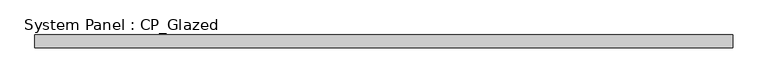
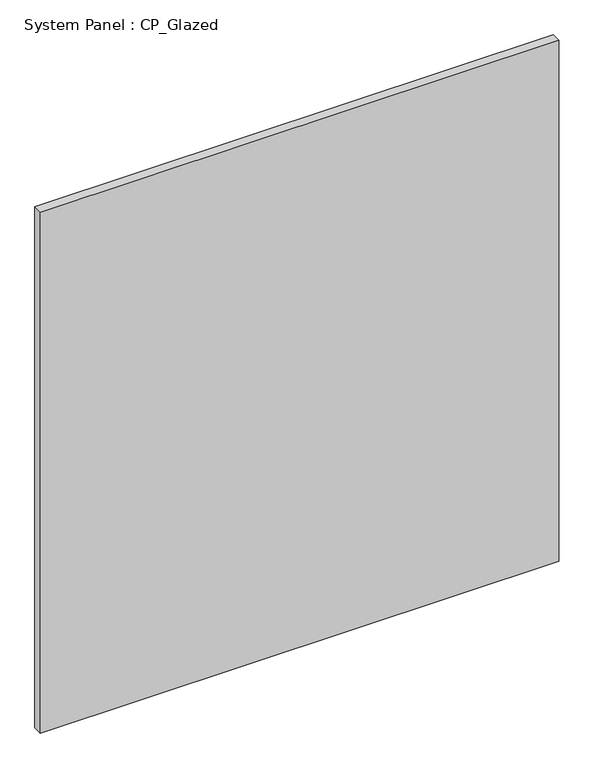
"""IFC4 building model written with IfcOpenShell, lengths in millimetres: plate geometry, System Panel : CP_Glazed."""

from ifc_helpers import new_model, si_unit, origin, origin_with_axes, place, context, project, spatial, polyline, outline, extrude, source, transform, mapped, element, save


def system_panel_cp_glazed_440f15f9(model_context):
    return source(origin(), model_context, "Body", "SweptSolid", [
        extrude(outline(polyline([(694.9514706, -44.45), (-694.9514706, -44.45), (-694.9514706, -19.05), (694.9514706, -19.05), (694.9514706, -44.45)])), origin_with_axes(), (0.0, 0.0, 1.0), 1476.932784),
    ])


if __name__ == "__main__":
    model = new_model("IFC4")
    model_context = context("Model", 3, world=origin())
    ifc_project = project(units=[si_unit("LENGTHUNIT", "METRE", prefix="MILLI")], contexts=[model_context])
    site = spatial("IfcSite", under=ifc_project)
    building = spatial("IfcBuilding", under=site)
    placement = place(None, origin())
    system_panel_cp_glazed_shape = system_panel_cp_glazed_440f15f9(model_context)
    element("IfcPlate", 1, ObjectType="System Panel : CP_Glazed", at=placement, inside=building, context=model_context, shape_type="MappedRepresentation", body=[
        mapped(system_panel_cp_glazed_shape, transform((0.0, 0.0, 0.0), x_axis=(1.0, 0.0, 0.0), y_axis=(0.0, 1.0, 0.0), z_axis=(0.0, 0.0, 1.0))),
    ])
    save(model, "model.ifc")
